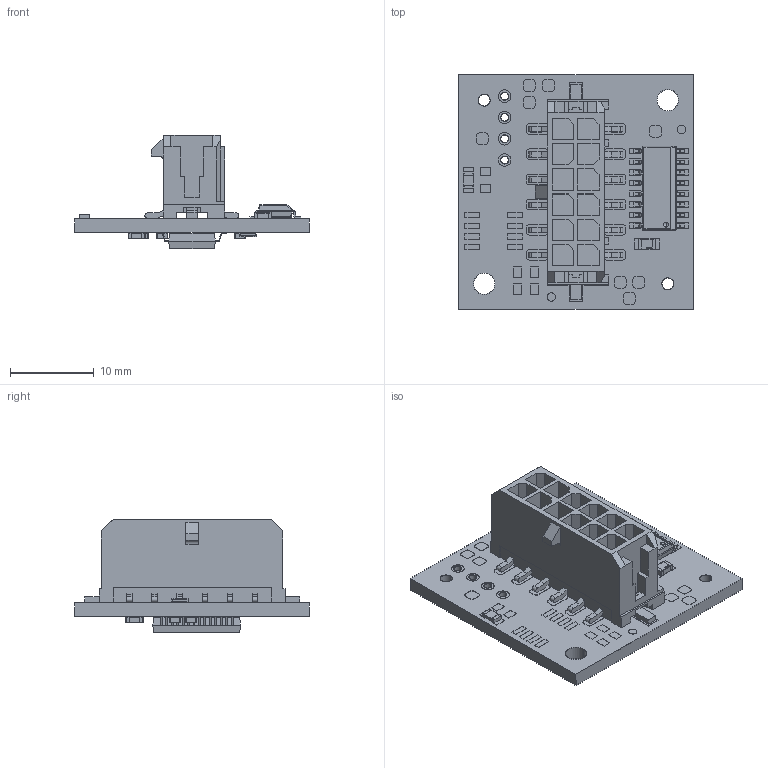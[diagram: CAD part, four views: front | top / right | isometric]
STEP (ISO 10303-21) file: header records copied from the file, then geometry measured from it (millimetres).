
FILE_DESCRIPTION (( 'STEP AP214' ), '1' );
FILE_NAME ('RMB28SSI_INC_AM4096_MODM371.STEP', '2019-12-04T15:04:53', ( '' ), ( '' ), 'SwSTEP 2.0', 'SolidWorks 2016', '' );
FILE_SCHEMA (( 'AUTOMOTIVE_DESIGN' ));
Length unit declared in the file: millimetre
Products named in the file (1): RMB28SSI_INC_AM4096_MODM371
Bounding box: 28 x 28 x 13.57 mm (x, y, z)
Volume: 2307.5 mm3; surface area: 4697.8 mm2
Topology: 185 solids, 185 shells, 3128 faces, 7829 edges, 5087 vertices
Faces by surface type: plane 2192, cylinder 504, bspline 420, sphere 12
Entity records: 158335 total; most frequent: CARTESIAN_POINT 50015, ORIENTED_EDGE 15524, DIRECTION 13063, EDGE_CURVE 7762, LINE 6011, VECTOR 6011, VERTEX_POINT 5086, AXIS2_PLACEMENT_3D 3526
